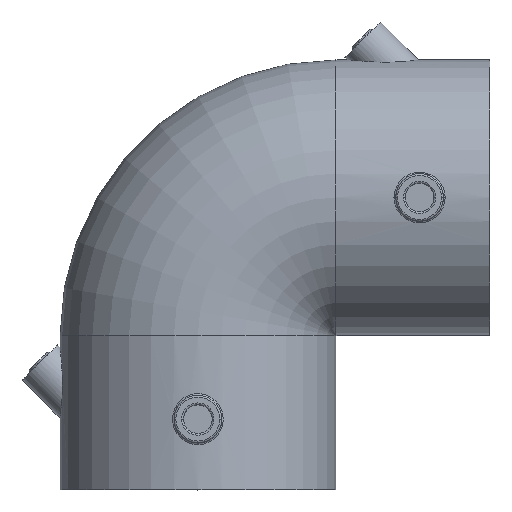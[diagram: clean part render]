
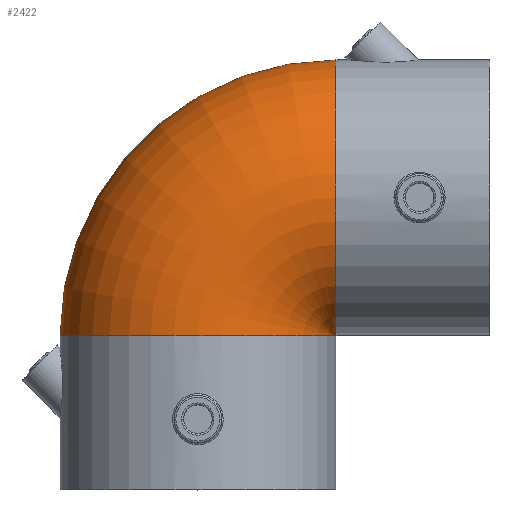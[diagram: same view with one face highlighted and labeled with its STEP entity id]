
A CAD part, top view. The second image highlights one B-rep face of the part: STEP entity #2422.
In plain terms, the highlighted toroidal (fillet/blend) face has major radius 38.6 mm and minor radius 38.5 mm.
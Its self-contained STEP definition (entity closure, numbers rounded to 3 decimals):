
#493 = EDGE_LOOP ( 'NONE', ( #1382, #1383, #1553, #1554 ) ) ;
#700 = CARTESIAN_POINT ( 'NONE',  ( -43.1, -38.6, 0. ) ) ;
#719 = CARTESIAN_POINT ( 'NONE',  ( -43., 38.5, 0. ) ) ;
#771 = CARTESIAN_POINT ( 'NONE',  ( -43., -38.5, 0. ) ) ;
#774 = CARTESIAN_POINT ( 'NONE',  ( -120.1, -38.6, 0. ) ) ;
#1272 = VERTEX_POINT ( 'NONE', #774 ) ;
#1275 = VERTEX_POINT ( 'NONE', #771 ) ;
#1317 = VERTEX_POINT ( 'NONE', #719 ) ;
#1332 = VERTEX_POINT ( 'NONE', #700 ) ;
#1382 = ORIENTED_EDGE ( 'NONE', *, *, #2877, .F. ) ;
#1383 = ORIENTED_EDGE ( 'NONE', *, *, #2893, .T. ) ;
#1553 = ORIENTED_EDGE ( 'NONE', *, *, #2876, .T. ) ;
#1554 = ORIENTED_EDGE ( 'NONE', *, *, #2898, .F. ) ;
#1784 = DIRECTION ( 'NONE',  ( 0., 0., 1. ) ) ;
#1788 = FACE_OUTER_BOUND ( 'NONE', #493, .T. ) ;
#1792 = CARTESIAN_POINT ( 'NONE',  ( -43., -38.6, 0. ) ) ;
#1793 = DIRECTION ( 'NONE',  ( 1., 0., 0. ) ) ;
#1811 = CARTESIAN_POINT ( 'NONE',  ( -81.6, -38.6, 0. ) ) ;
#1812 = DIRECTION ( 'NONE',  ( 0., 1., 0. ) ) ;
#1813 = DIRECTION ( 'NONE',  ( 0., 0., -1. ) ) ;
#1815 = CARTESIAN_POINT ( 'NONE',  ( -43., 0., 0. ) ) ;
#1816 = DIRECTION ( 'NONE',  ( 1., 0., 0. ) ) ;
#1817 = DIRECTION ( 'NONE',  ( 0., 0., -1. ) ) ;
#1828 = CARTESIAN_POINT ( 'NONE',  ( -43., -38.6, 0. ) ) ;
#1829 = DIRECTION ( 'NONE',  ( 0., 0., 1. ) ) ;
#1830 = DIRECTION ( 'NONE',  ( 1., 0., 0. ) ) ;
#1964 = CARTESIAN_POINT ( 'NONE',  ( -43., -38.6, 0. ) ) ;
#1965 = DIRECTION ( 'NONE',  ( 0., 0., 1. ) ) ;
#1966 = DIRECTION ( 'NONE',  ( 1., 0., 0. ) ) ;
#2422 = ADVANCED_FACE ( 'NONE', ( #1788 ), #2460, .T. ) ;
#2431 = AXIS2_PLACEMENT_3D ( 'NONE', #1964, #1965, #1966 ) ;
#2432 = CIRCLE ( 'NONE', #2431, 0.1 ) ;
#2436 = AXIS2_PLACEMENT_3D ( 'NONE', #1828, #1829, #1830 ) ;
#2442 = CIRCLE ( 'NONE', #2436, 77.1 ) ;
#2443 = AXIS2_PLACEMENT_3D ( 'NONE', #1815, #1816, #1817 ) ;
#2445 = AXIS2_PLACEMENT_3D ( 'NONE', #1811, #1812, #1813 ) ;
#2448 = CIRCLE ( 'NONE', #2445, 38.5 ) ;
#2453 = CIRCLE ( 'NONE', #2443, 38.5 ) ;
#2455 = AXIS2_PLACEMENT_3D ( 'NONE', #1792, #1784, #1793 ) ;
#2460 = TOROIDAL_SURFACE ( 'NONE', #2455, 38.6, 38.5 ) ;
#2876 = EDGE_CURVE ( 'NONE', #1272, #1332, #2448, .T. ) ;
#2877 = EDGE_CURVE ( 'NONE', #1317, #1275, #2453, .T. ) ;
#2893 = EDGE_CURVE ( 'NONE', #1317, #1272, #2442, .T. ) ;
#2898 = EDGE_CURVE ( 'NONE', #1275, #1332, #2432, .T. ) ;
